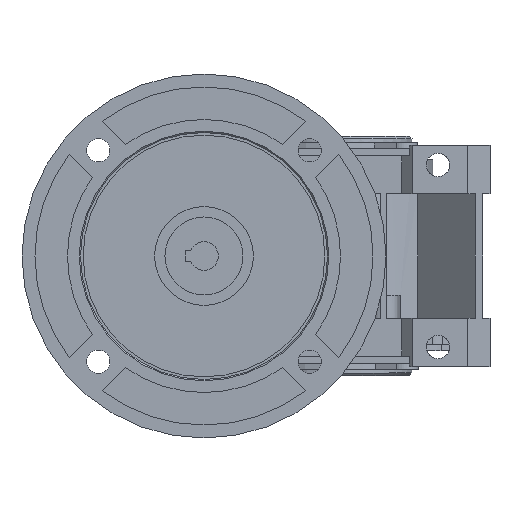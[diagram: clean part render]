
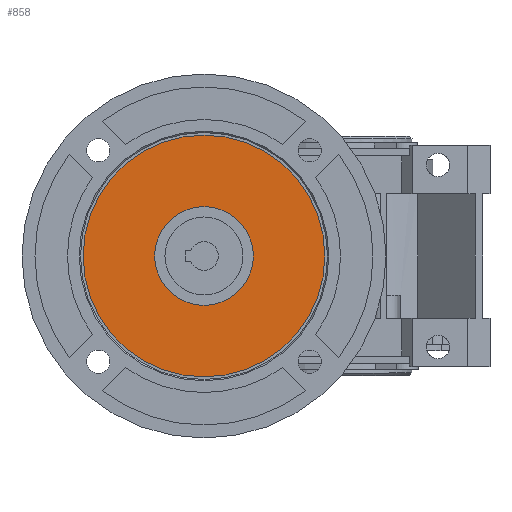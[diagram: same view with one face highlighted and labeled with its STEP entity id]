
A CAD part, left-side view. The second image highlights one B-rep face of the part: STEP entity #858.
In plain terms, the highlighted planar face has unit normal (-1, 0, 0).
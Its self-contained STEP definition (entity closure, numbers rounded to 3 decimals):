
#858 = ADVANCED_FACE ( 'NONE', ( #6897, #12466 ), #22362, .T. ) ;
#2013 = EDGE_LOOP ( 'NONE', ( #7174 ) ) ;
#3835 = DIRECTION ( 'NONE',  ( 1., 0., 0. ) ) ;
#6296 = EDGE_LOOP ( 'NONE', ( #13772 ) ) ;
#6803 = CARTESIAN_POINT ( 'NONE',  ( -68., 69., 0. ) ) ;
#6897 = FACE_BOUND ( 'NONE', #2013, .T. ) ;
#7174 = ORIENTED_EDGE ( 'NONE', *, *, #17746, .T. ) ;
#8543 = CARTESIAN_POINT ( 'NONE',  ( -68., 50., 0. ) ) ;
#8683 = AXIS2_PLACEMENT_3D ( 'NONE', #20336, #24567, #11992 ) ;
#8804 = CARTESIAN_POINT ( 'NONE',  ( -68., 3.5, 0. ) ) ;
#10204 = VERTEX_POINT ( 'NONE', #6803 ) ;
#10646 = DIRECTION ( 'NONE',  ( 0., -1., 0. ) ) ;
#10716 = CIRCLE ( 'NONE', #12010, 46.5 ) ;
#11992 = DIRECTION ( 'NONE',  ( 0., -1., 0. ) ) ;
#12010 = AXIS2_PLACEMENT_3D ( 'NONE', #8543, #23221, #10646 ) ;
#12466 = FACE_OUTER_BOUND ( 'NONE', #6296, .T. ) ;
#13772 = ORIENTED_EDGE ( 'NONE', *, *, #16171, .T. ) ;
#15117 = CIRCLE ( 'NONE', #19223, 19. ) ;
#16171 = EDGE_CURVE ( 'NONE', #17074, #17074, #10716, .T. ) ;
#16363 = CARTESIAN_POINT ( 'NONE',  ( -68., 50., 0. ) ) ;
#17074 = VERTEX_POINT ( 'NONE', #8804 ) ;
#17746 = EDGE_CURVE ( 'NONE', #10204, #10204, #15117, .T. ) ;
#18497 = DIRECTION ( 'NONE',  ( 0., 1., 0. ) ) ;
#19223 = AXIS2_PLACEMENT_3D ( 'NONE', #16363, #3835, #18497 ) ;
#20336 = CARTESIAN_POINT ( 'NONE',  ( -68., 50., -23.25 ) ) ;
#22362 = PLANE ( 'NONE',  #8683 ) ;
#23221 = DIRECTION ( 'NONE',  ( -1., 0., 0. ) ) ;
#24567 = DIRECTION ( 'NONE',  ( -1., 0., 0. ) ) ;
